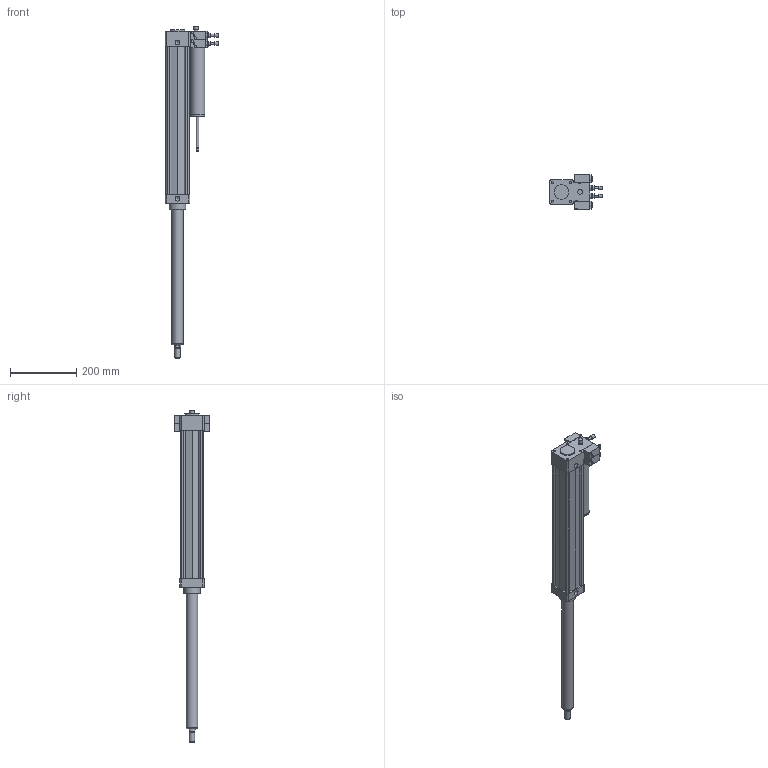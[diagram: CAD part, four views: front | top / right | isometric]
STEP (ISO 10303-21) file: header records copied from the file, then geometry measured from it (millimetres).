
FILE_DESCRIPTION((''),'2;1');
FILE_NAME('I:\Area Tecnica\Disegni\VARIE-3D\Componenti\COP\14##.####.#.#.#\14630400D.C.C.stp','2008-04-24T09:17:50',('airolcr1'),(''),'Autodesk Inventor 2008','Autodesk Inventor 2008','');
FILE_SCHEMA(('AUTOMOTIVE_DESIGN { 1 0 10303 214 1 1 1 1 }'));
Length unit declared in the file: millimetre
Products named in the file (9): 14630400D.C.C; STELO Ø63 C 400; VAL SK NC IN; VAL SK NC OUT; VAL ST NC IN; VAL ST NC OUT; REGOLATORE DR IN; REGOLATORE DR OUT
Assembly tree (8 placements, depth 2):
  14630400D.C.C
    14630400D.C.C
    STELO Ø63 C 400
    VAL SK NC IN
    VAL SK NC OUT
    VAL ST NC IN
    VAL ST NC OUT
    REGOLATORE DR IN
    REGOLATORE DR OUT
Bounding box: 163 x 105.61 x 1006 mm (x, y, z)
Volume: 3405274.7 mm3; surface area: 301673.2 mm2
Topology: 8 solids, 8 shells, 308 faces, 646 edges, 417 vertices
Faces by surface type: plane 171, cylinder 91, bspline 34, cone 11, torus 1
Full cylindrical faces by diameter (mm): 2 x2, 4 x16, 6 x2, 7 x16, 8 x2, 11 x2, 12 x2, 13 x1, 14 x1, 14.5 x1, 16 x1, 17 x4, 20 x1, 34.7 x1, 35 x2, 41 x1, 45 x3, 50 x1
Entity records: 8314 total; most frequent: CARTESIAN_POINT 1653, DIRECTION 1362, ORIENTED_EDGE 1084, EDGE_CURVE 542, AXIS2_PLACEMENT_3D 529, EDGE_LOOP 462, VERTEX_POINT 404, FACE_OUTER_BOUND 308
